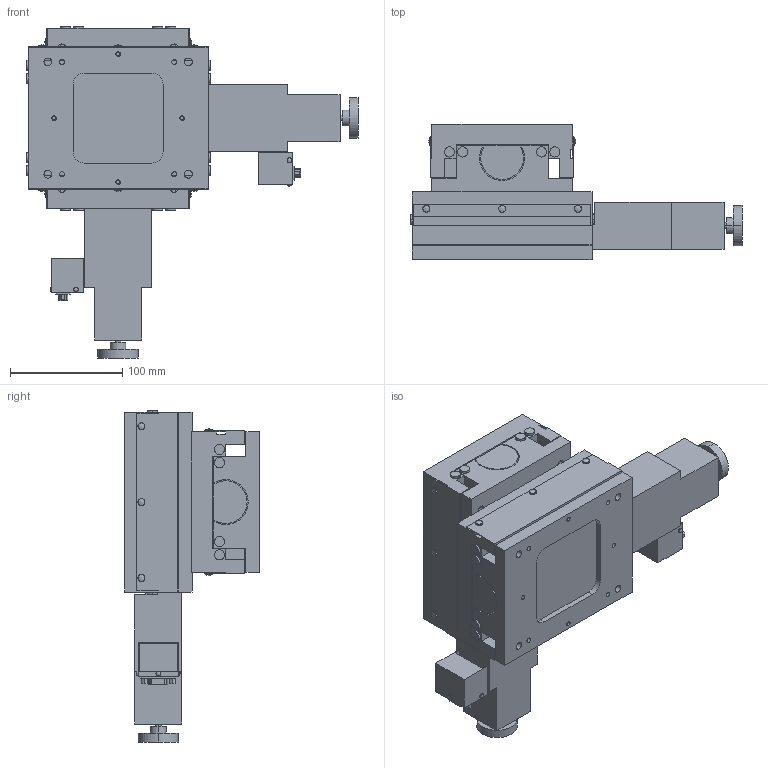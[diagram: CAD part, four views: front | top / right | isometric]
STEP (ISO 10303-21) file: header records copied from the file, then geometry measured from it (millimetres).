
FILE_DESCRIPTION (( 'STEP AP203' ), '1' );
FILE_NAME ('ALD-105-H1S.STEP', '2008-03-26T01:29:26', ( '' ), ( '' ), 'SwSTEP 2.0', 'SolidWorks 2007', '' );
FILE_SCHEMA (( 'CONFIG_CONTROL_DESIGN' ));
Length unit declared in the file: millimetre
Products named in the file (4): ALD-105-H1S-2; ALD-105-H1S-3; ALD-105-H1S; ALD-105-H1S-1
Assembly tree (3 placements, depth 2):
  ALD-105-H1S
    ALD-105-H1S-3
    ALD-105-H1S-2
    ALD-105-H1S-1
Bounding box: 295.5 x 120 x 295.5 mm (x, y, z)
Volume: 2699535.2 mm3; surface area: 346017.3 mm2
Topology: 3 solids, 16 shells, 749 faces, 1778 edges, 1136 vertices
Faces by surface type: plane 333, cylinder 314, cone 84, bspline 18
Entity records: 25392 total; most frequent: CARTESIAN_POINT 7311, DIRECTION 3832, ORIENTED_EDGE 3460, EDGE_CURVE 1730, AXIS2_PLACEMENT_3D 1401, VERTEX_POINT 1136, VECTOR 1030, LINE 1030
